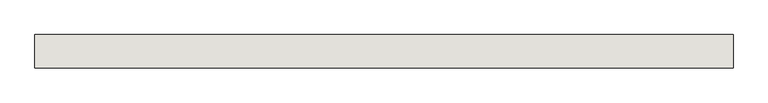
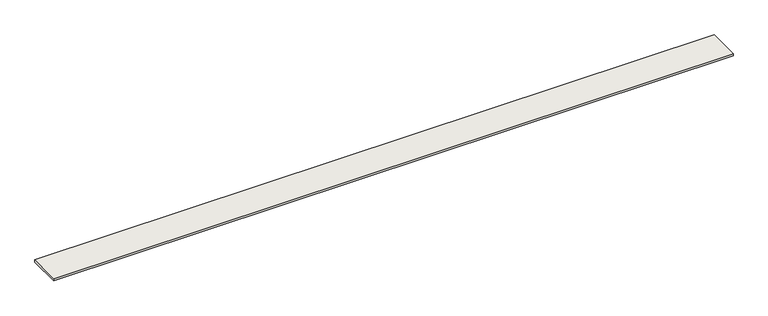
"""IFC4 building model written with IfcOpenShell, lengths in millimetres: wall geometry, Muestra_10Piezas_122 G1 Liso : Muestra_10Piezas_122G Liso."""

import ifcopenshell
import ifcopenshell.guid

model = None  # the IFC model being written
_history = None  # IfcOwnerHistory: only IFC2X3 demands one
_inside = {}  # id of a spatial element -> (the spatial element, [elements in it])
_under = {}  # id of a project, library or spatial element -> (it, [spatial elements below it])
_declared = {}  # id of a project -> (the project, [libraries it declares])
_typed = {}  # id of a type object -> (the type object, [elements of that type])
_made_of = {}  # id of a material, layer set ... -> (it, [elements and type objects made of it])


def new_model(schema):
    """Start an empty IFC model of exactly this schema.

    Asked for "IFC4X3", IfcOpenShell would pick the latest addendum, in which some entities
    have other attributes; the version numbers below select the first issue.
    IFC2X3 requires an IfcOwnerHistory on every rooted entity: one is made here for all.
    """
    global model, _history
    if schema == "IFC4X3":
        model = ifcopenshell.file(schema_version=(4, 3, 0, 0))
    else:
        model = ifcopenshell.file(schema=schema)
    _inside.clear()
    _under.clear()
    _declared.clear()
    _typed.clear()
    _made_of.clear()
    _history = None
    if model.schema == "IFC2X3":
        org = make("IfcOrganization", Name="unknown")
        user = make(
            "IfcPersonAndOrganization",
            ThePerson=make("IfcPerson", FamilyName="unknown"),
            TheOrganization=org,
        )
        app = make(
            "IfcApplication",
            ApplicationDeveloper=org,
            Version="unknown",
            ApplicationFullName="unknown",
            ApplicationIdentifier="unknown",
        )
        _history = make(
            "IfcOwnerHistory",
            OwningUser=user,
            OwningApplication=app,
            ChangeAction="ADDED",
            CreationDate=0,
        )
    return model


def make(cls, **values):
    """One entity of the class cls with the attributes given. An attribute that is None is left unset."""
    return model.create_entity(
        cls, **{name: value for name, value in values.items() if value is not None}
    )


def rooted(cls, **values):
    """An entity with a GlobalId (a new one), such as an element, a storey or a relation."""
    return make(cls, GlobalId=ifcopenshell.guid.new(), OwnerHistory=_history, **values)


def si_unit(unit_type, name, prefix=None):
    """IfcSIUnit, for example si_unit("LENGTHUNIT", "METRE", prefix="MILLI")."""
    return make("IfcSIUnit", UnitType=unit_type, Prefix=prefix, Name=name)


def assignment(units):
    """IfcUnitAssignment: the units of a project."""
    return None if units is None else make("IfcUnitAssignment", Units=units)


def point(xyz):
    """IfcCartesianPoint."""
    return None if xyz is None else make("IfcCartesianPoint", Coordinates=xyz)


def direction(xyz):
    """IfcDirection."""
    return None if xyz is None else make("IfcDirection", DirectionRatios=xyz)


def frame(location, z_axis=None, x_axis=None):
    """IfcAxis2Placement3D, a coordinate frame: its origin and axes. An axis left out is left unset."""
    return make(
        "IfcAxis2Placement3D",
        Location=point(location),
        Axis=direction(z_axis),
        RefDirection=direction(x_axis),
    )


def origin():
    """The frame at (0, 0, 0) with its axes left unset."""
    return frame((0.0, 0.0, 0.0))


def place(relative_to, where):
    """IfcLocalPlacement: puts the frame where relative to a parent placement (None: the world)."""
    return make(
        "IfcLocalPlacement", PlacementRelTo=relative_to, RelativePlacement=where
    )


def context(
    kind, dimensions, precision=None, world=None, true_north=None, identifier=None
):
    """IfcGeometricRepresentationContext, for example the 3D "Model" context."""
    return make(
        "IfcGeometricRepresentationContext",
        ContextIdentifier=identifier,
        ContextType=kind,
        CoordinateSpaceDimension=dimensions,
        Precision=precision,
        WorldCoordinateSystem=world,
        TrueNorth=true_north,
    )


def project(units=None, contexts=None):
    """IfcProject with its units and contexts."""
    return rooted(
        "IfcProject",
        Name="project",
        RepresentationContexts=contexts,
        UnitsInContext=assignment(units),
    )


def spatial(cls, under=None, at=None, **own):
    """A site, building, storey or space (cls), placed at a placement, below another one or the project."""
    s = rooted(cls, ObjectPlacement=at, **own)
    if under is not None:
        _under.setdefault(under.id(), (under, []))[1].append(s)
    return s


def polyline(points):
    """IfcPolyline through the points."""
    return make("IfcPolyline", Points=[point(p) for p in points])


def outline(outer, holes=None, kind="AREA"):
    """IfcArbitraryClosedProfileDef: a profile drawn as a closed curve; with holes, ...WithVoids."""
    if holes is None:
        return make("IfcArbitraryClosedProfileDef", ProfileType=kind, OuterCurve=outer)
    return make(
        "IfcArbitraryProfileDefWithVoids",
        ProfileType=kind,
        OuterCurve=outer,
        InnerCurves=holes,
    )


def extrude(swept, where, along, depth):
    """IfcExtrudedAreaSolid: the profile swept, set in the frame where, extruded along a direction by depth."""
    return make(
        "IfcExtrudedAreaSolid",
        SweptArea=swept,
        Position=where,
        ExtrudedDirection=direction(along),
        Depth=depth,
    )


def shape(context_of_items, identifier, shape_type, items):
    """IfcShapeRepresentation: the items that make up one representation, for example the "Body"."""
    return make(
        "IfcShapeRepresentation",
        ContextOfItems=context_of_items,
        RepresentationIdentifier=identifier,
        RepresentationType=shape_type,
        Items=items,
    )


def source(mapping_origin, context_of_items, identifier, shape_type, items):
    """IfcRepresentationMap: a shape defined once, which mapped items show again and again."""
    return make(
        "IfcRepresentationMap",
        MappingOrigin=mapping_origin,
        MappedRepresentation=shape(context_of_items, identifier, shape_type, items),
    )


def transform(
    local_origin,
    x_axis=None,
    y_axis=None,
    z_axis=None,
    scale=None,
    scale2=None,
    scale3=None,
    uniform=True,
):
    """IfcCartesianTransformationOperator3D, or its non-uniform kind. x_axis, y_axis, z_axis: its Axis1, 2, 3."""
    if uniform:
        return make(
            "IfcCartesianTransformationOperator3D",
            Axis1=direction(x_axis),
            Axis2=direction(y_axis),
            LocalOrigin=point(local_origin),
            Scale=scale,
            Axis3=direction(z_axis),
        )
    return make(
        "IfcCartesianTransformationOperator3DnonUniform",
        Axis1=direction(x_axis),
        Axis2=direction(y_axis),
        LocalOrigin=point(local_origin),
        Scale=scale,
        Axis3=direction(z_axis),
        Scale2=scale2,
        Scale3=scale3,
    )


def mapped(mapping_source, mapping_target):
    """IfcMappedItem: shows the shape of a source again, moved by a transform."""
    return make(
        "IfcMappedItem", MappingSource=mapping_source, MappingTarget=mapping_target
    )


def made_of(thing, what):
    """Note that an element or type object is made of a material, layer set ...; save() writes the relation."""
    if what is not None:
        _made_of.setdefault(what.id(), (what, []))[1].append(thing)
    return thing


def element(
    cls,
    number,
    at=None,
    inside=None,
    cuts=None,
    type_object=None,
    material=None,
    context=None,
    identifier="Body",
    shape_type=None,
    held_by="IfcProductDefinitionShape",
    body=None,
    shapes=None,
    **own,
):
    """One element of the class cls, such as IfcWall. Its Tag is "e" and its number.

    at: its placement. inside: the storey or other place that contains it. cuts: it is an
    opening in that element (IfcRelVoidsElement). A single representation is given by context,
    identifier, shape_type and body (its items); several are given by shapes. held_by: the class
    of the entity that holds the representations. save() writes the other relations.
    """
    e = rooted(cls, Tag="e%d" % number, ObjectPlacement=at, **own)
    if body is not None:
        shapes = [shape(context, identifier, shape_type, body)]
    if shapes is not None:
        e.Representation = make(held_by, Representations=shapes)
    if inside is not None:
        _inside.setdefault(inside.id(), (inside, []))[1].append(e)
    if cuts is not None:
        rooted(
            "IfcRelVoidsElement", RelatingBuildingElement=cuts, RelatedOpeningElement=e
        )
    if type_object is not None:
        _typed.setdefault(type_object.id(), (type_object, []))[1].append(e)
    return made_of(e, material)


def aggregate(whole, parts):
    """IfcRelAggregates: a whole, such as a stair, and the parts it consists of."""
    return rooted("IfcRelAggregates", RelatingObject=whole, RelatedObjects=parts)


def save(model, path):
    """Write the relations noted so far, then the file.

    IfcRelAggregates (storeys below a building ...), IfcRelContainedInSpatialStructure (elements
    in a storey), IfcRelDefinesByType, IfcRelAssociatesMaterial and IfcRelDeclares: one each for
    every whole, place, type object, material and project.
    """
    for whole, parts in _under.values():
        aggregate(whole, parts)
    for where, things in _inside.values():
        rooted(
            "IfcRelContainedInSpatialStructure",
            RelatedElements=things,
            RelatingStructure=where,
        )
    for kind, things in _typed.values():
        rooted("IfcRelDefinesByType", RelatedObjects=things, RelatingType=kind)
    for what, things in _made_of.values():
        rooted("IfcRelAssociatesMaterial", RelatedObjects=things, RelatingMaterial=what)
    for by, libraries in _declared.values():
        rooted("IfcRelDeclares", RelatingContext=by, RelatedDefinitions=libraries)
    model.write(path)


def wall_a92842a3(model_context):
    return source(origin(), model_context, "Body", "SweptSolid", [
        extrude(outline(polyline([(49678.4104473, 5796.316465), (49678.4104473, 5916.316465), (52178.4104473, 5916.316465), (52178.4104473, 5796.316465), (49678.4104473, 5796.316465)])), frame((0.0, 0.0, -0.4), z_axis=(0.0, 0.0, 1.0), x_axis=(1.0, 0.0, 0.0)), (0.0, 0.0, 1.0), 9.0),
    ])


if __name__ == "__main__":
    model = new_model("IFC4")
    model_context = context("Model", 3, world=origin())
    ifc_project = project(units=[si_unit("LENGTHUNIT", "METRE", prefix="MILLI")], contexts=[model_context])
    site = spatial("IfcSite", under=ifc_project)
    building = spatial("IfcBuilding", under=site)
    placement = place(None, origin())
    wall_shape = wall_a92842a3(model_context)
    element("IfcWall", 1, ObjectType="Muestra_10Piezas_122 G1 Liso : Muestra_10Piezas_122G Liso", at=placement, inside=building, context=model_context, shape_type="MappedRepresentation", body=[
        mapped(wall_shape, transform((0.0, 0.0, 0.0), x_axis=(1.0, 0.0, 0.0), y_axis=(0.0, 1.0, 0.0), z_axis=(0.0, 0.0, 1.0))),
    ])
    save(model, "model.ifc")
